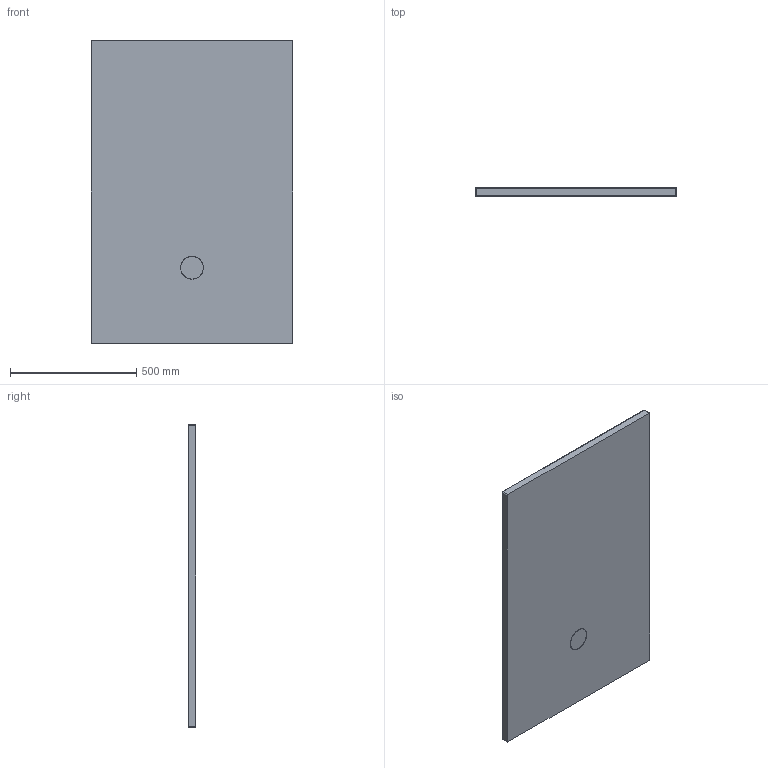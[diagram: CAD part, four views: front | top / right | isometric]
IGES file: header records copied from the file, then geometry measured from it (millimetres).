
Start section: SolidWorks IGES file using analytic representation for surfaces
Global section: file name: D:\Users\M.Szymanski\Desktop\Brodziki\Nias\B_M_NIAS_120x80x1,5.IGS; native system: SolidWorks 2011; preprocessor: SolidWorks 2011; author: M.Szymanski; date: 180222.141934; units: millimetre
Bounding box: 800 x 30 x 1200 mm (x, y, z)
Surface area: 2059689.1 mm2 (no closed solid volume)
Topology: 0 solids, 0 shells, 45 faces, 648 edges, 647 vertices
Faces by surface type: bspline 25, revolution 20
